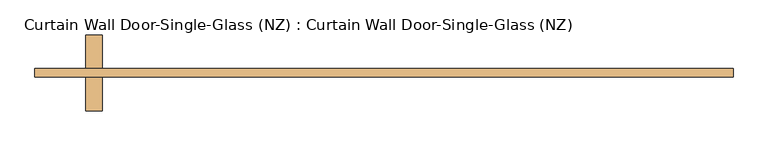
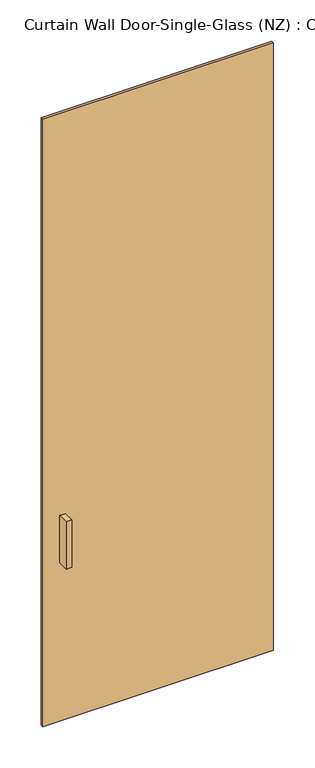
"""IFC4 building model written with IfcOpenShell, lengths in millimetres: door geometry, Curtain Wall Door-Single-Glass (NZ) : Curtain Wall Door-Single-Glass (NZ)."""

from ifc_helpers import new_model, si_unit, frame, origin, origin_with_axes, place, context, project, spatial, polyline, outline, extrude, source, transform, mapped, element, save


def curtain_wall_door_single_glass_nz_curtain_wall_door_single_ff8afd41(model_context):
    return source(origin(), model_context, "Body", "SweptSolid", [
        extrude(outline(polyline([(525.0, -51.0), (-525.0, -51.0), (-525.0, -38.3), (525.0, -38.3), (525.0, -51.0)])), origin_with_axes(), (0.0, 0.0, 1.0), 2925.0),
        extrude(outline(polyline([(-448.8, -101.8), (-448.8, -51.0), (-423.4, -51.0), (-423.4, -101.8), (-448.8, -101.8)])), frame((0.0, 0.0, 762.0), z_axis=(0.0, 0.0, 1.0), x_axis=(1.0, 0.0, 0.0)), (0.0, 0.0, 1.0), 228.6),
        extrude(outline(polyline([(-423.4, 12.5), (-423.4, -38.3), (-448.8, -38.3), (-448.8, 12.5), (-423.4, 12.5)])), frame((0.0, 0.0, 762.0), z_axis=(0.0, 0.0, 1.0), x_axis=(1.0, 0.0, 0.0)), (0.0, 0.0, 1.0), 228.6),
    ])


if __name__ == "__main__":
    model = new_model("IFC4")
    model_context = context("Model", 3, world=origin())
    ifc_project = project(units=[si_unit("LENGTHUNIT", "METRE", prefix="MILLI")], contexts=[model_context])
    site = spatial("IfcSite", under=ifc_project)
    building = spatial("IfcBuilding", under=site)
    placement = place(None, origin())
    curtain_wall_door_single_glass_nz_curtain_wall_door_single_shape = curtain_wall_door_single_glass_nz_curtain_wall_door_single_ff8afd41(model_context)
    element("IfcDoor", 1, ObjectType="Curtain Wall Door-Single-Glass (NZ) : Curtain Wall Door-Single-Glass (NZ)", at=placement, inside=building, context=model_context, shape_type="MappedRepresentation", body=[
        mapped(curtain_wall_door_single_glass_nz_curtain_wall_door_single_shape, transform((0.0, 0.0, 0.0), x_axis=(1.0, 0.0, 0.0), y_axis=(0.0, 1.0, 0.0), z_axis=(0.0, 0.0, 1.0))),
    ])
    save(model, "model.ifc")
